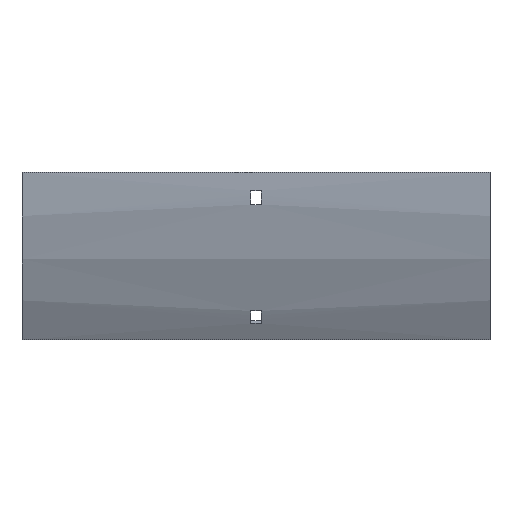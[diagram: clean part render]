
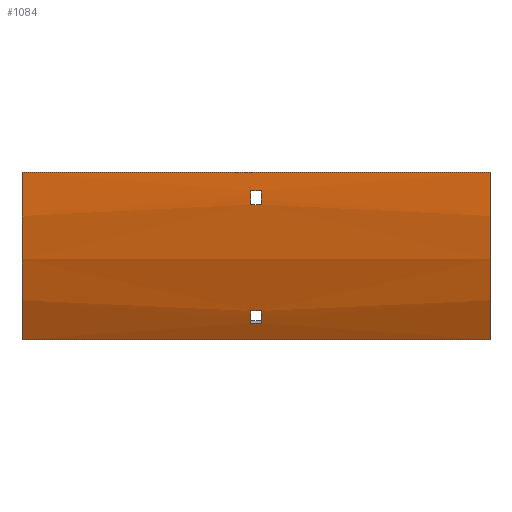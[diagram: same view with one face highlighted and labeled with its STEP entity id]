
A CAD part, front view. The second image highlights one B-rep face of the part: STEP entity #1084.
In plain terms, the highlighted cylindrical face has radius 217.5 mm (diameter 435 mm), a partial arc.
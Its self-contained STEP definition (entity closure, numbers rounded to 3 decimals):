
#8 = DIRECTION ( 'NONE',  ( -1., 0., 0. ) ) ;
#10 = ORIENTED_EDGE ( 'NONE', *, *, #236, .T. ) ;
#14 = DIRECTION ( 'NONE',  ( 1., 0., 0. ) ) ;
#39 = ORIENTED_EDGE ( 'NONE', *, *, #872, .F. ) ;
#48 = DIRECTION ( 'NONE',  ( 0., 0., -1. ) ) ;
#61 = DIRECTION ( 'NONE',  ( 1., 0., 0. ) ) ;
#101 = DIRECTION ( 'NONE',  ( 0., 0., 1. ) ) ;
#113 = AXIS2_PLACEMENT_3D ( 'NONE', #640, #1268, #868 ) ;
#156 = ORIENTED_EDGE ( 'NONE', *, *, #1044, .F. ) ;
#164 = EDGE_CURVE ( 'NONE', #1569, #1612, #210, .T. ) ;
#187 = VERTEX_POINT ( 'NONE', #1480 ) ;
#198 = EDGE_LOOP ( 'NONE', ( #1491, #344, #10, #444 ) ) ;
#209 = DIRECTION ( 'NONE',  ( -1., 0., 0. ) ) ;
#210 = CIRCLE ( 'NONE', #1019, 217.5 ) ;
#214 = CARTESIAN_POINT ( 'NONE',  ( -3.25, -94.074, -98.192 ) ) ;
#216 = EDGE_CURVE ( 'NONE', #769, #761, #411, .T. ) ;
#232 = VERTEX_POINT ( 'NONE', #214 ) ;
#236 = EDGE_CURVE ( 'NONE', #327, #1569, #439, .T. ) ;
#239 = ORIENTED_EDGE ( 'NONE', *, *, #1580, .T. ) ;
#245 = DIRECTION ( 'NONE',  ( -1., 0., 0. ) ) ;
#250 = DIRECTION ( 'NONE',  ( 0., 0., -1. ) ) ;
#251 = FACE_BOUND ( 'NONE', #198, .T. ) ;
#285 = CARTESIAN_POINT ( 'NONE',  ( 152., -117.5, 0. ) ) ;
#304 = VERTEX_POINT ( 'NONE', #330 ) ;
#327 = VERTEX_POINT ( 'NONE', #857 ) ;
#330 = CARTESIAN_POINT ( 'NONE',  ( -152., -117.5, 0. ) ) ;
#337 = EDGE_LOOP ( 'NONE', ( #39, #823, #517, #156 ) ) ;
#341 = CIRCLE ( 'NONE', #1252, 217.5 ) ;
#344 = ORIENTED_EDGE ( 'NONE', *, *, #1631, .T. ) ;
#366 = CARTESIAN_POINT ( 'NONE',  ( -152., 100., 0. ) ) ;
#373 = EDGE_CURVE ( 'NONE', #742, #769, #702, .T. ) ;
#376 = DIRECTION ( 'NONE',  ( 1., 0., 0. ) ) ;
#411 = LINE ( 'NONE', #1067, #509 ) ;
#414 = VERTEX_POINT ( 'NONE', #1362 ) ;
#432 = EDGE_CURVE ( 'NONE', #304, #414, #341, .T. ) ;
#439 = LINE ( 'NONE', #1402, #1393 ) ;
#444 = ORIENTED_EDGE ( 'NONE', *, *, #164, .T. ) ;
#495 = CARTESIAN_POINT ( 'NONE',  ( 152., -88.361, -108.75 ) ) ;
#506 = ORIENTED_EDGE ( 'NONE', *, *, #432, .T. ) ;
#509 = VECTOR ( 'NONE', #924, 1000. ) ;
#510 = EDGE_LOOP ( 'NONE', ( #506, #1101, #1391, #239 ) ) ;
#516 = LINE ( 'NONE', #1026, #741 ) ;
#517 = ORIENTED_EDGE ( 'NONE', *, *, #373, .F. ) ;
#523 = CYLINDRICAL_SURFACE ( 'NONE', #1361, 217.5 ) ;
#594 = CARTESIAN_POINT ( 'NONE',  ( 3.25, -97.98, -90.055 ) ) ;
#640 = CARTESIAN_POINT ( 'NONE',  ( -3.25, 100., 0. ) ) ;
#647 = DIRECTION ( 'NONE',  ( -1., 0., 0. ) ) ;
#649 = CARTESIAN_POINT ( 'NONE',  ( 3.25, -117.169, -12. ) ) ;
#662 = CARTESIAN_POINT ( 'NONE',  ( 3.25, -94.074, -98.192 ) ) ;
#681 = CARTESIAN_POINT ( 'NONE',  ( 152., -117.5, 0. ) ) ;
#702 = CIRCLE ( 'NONE', #1675, 217.5 ) ;
#706 = CARTESIAN_POINT ( 'NONE',  ( -3.25, -97.98, -90.055 ) ) ;
#717 = CARTESIAN_POINT ( 'NONE',  ( 152., 100., 0. ) ) ;
#741 = VECTOR ( 'NONE', #8, 1000. ) ;
#742 = VERTEX_POINT ( 'NONE', #662 ) ;
#757 = DIRECTION ( 'NONE',  ( 1., 0., 0. ) ) ;
#761 = VERTEX_POINT ( 'NONE', #706 ) ;
#769 = VERTEX_POINT ( 'NONE', #594 ) ;
#772 = DIRECTION ( 'NONE',  ( 0., 0., 1. ) ) ;
#781 = CIRCLE ( 'NONE', #1230, 217.5 ) ;
#792 = FACE_OUTER_BOUND ( 'NONE', #510, .T. ) ;
#796 = LINE ( 'NONE', #285, #897 ) ;
#823 = ORIENTED_EDGE ( 'NONE', *, *, #216, .F. ) ;
#825 = CARTESIAN_POINT ( 'NONE',  ( 3.25, 100., 0. ) ) ;
#850 = CIRCLE ( 'NONE', #113, 217.5 ) ;
#857 = CARTESIAN_POINT ( 'NONE',  ( -3.25, -117.169, -12. ) ) ;
#868 = DIRECTION ( 'NONE',  ( 0., 0., -1. ) ) ;
#872 = EDGE_CURVE ( 'NONE', #761, #232, #850, .T. ) ;
#894 = DIRECTION ( 'NONE',  ( 0., 0., -1. ) ) ;
#897 = VECTOR ( 'NONE', #1320, 1000. ) ;
#924 = DIRECTION ( 'NONE',  ( -1., 0., 0. ) ) ;
#958 = CIRCLE ( 'NONE', #1300, 217.5 ) ;
#1019 = AXIS2_PLACEMENT_3D ( 'NONE', #825, #14, #48 ) ;
#1026 = CARTESIAN_POINT ( 'NONE',  ( 152., -116.484, -21. ) ) ;
#1044 = EDGE_CURVE ( 'NONE', #232, #742, #1140, .T. ) ;
#1056 = LINE ( 'NONE', #495, #1534 ) ;
#1067 = CARTESIAN_POINT ( 'NONE',  ( 152., -97.98, -90.055 ) ) ;
#1084 = ADVANCED_FACE ( 'NONE', ( #792, #251, #1294 ), #523, .T. ) ;
#1101 = ORIENTED_EDGE ( 'NONE', *, *, #1251, .F. ) ;
#1127 = DIRECTION ( 'NONE',  ( -1., 0., 0. ) ) ;
#1140 = LINE ( 'NONE', #1567, #1621 ) ;
#1185 = CARTESIAN_POINT ( 'NONE',  ( 152., 100., 0. ) ) ;
#1230 = AXIS2_PLACEMENT_3D ( 'NONE', #1383, #1127, #101 ) ;
#1251 = EDGE_CURVE ( 'NONE', #1642, #414, #1056, .T. ) ;
#1252 = AXIS2_PLACEMENT_3D ( 'NONE', #366, #1396, #894 ) ;
#1256 = DIRECTION ( 'NONE',  ( 0., 0., 1. ) ) ;
#1262 = EDGE_CURVE ( 'NONE', #1427, #1642, #958, .T. ) ;
#1268 = DIRECTION ( 'NONE',  ( 1., 0., 0. ) ) ;
#1294 = FACE_BOUND ( 'NONE', #337, .T. ) ;
#1300 = AXIS2_PLACEMENT_3D ( 'NONE', #717, #376, #250 ) ;
#1320 = DIRECTION ( 'NONE',  ( -1., 0., 0. ) ) ;
#1326 = CARTESIAN_POINT ( 'NONE',  ( 3.25, -116.484, -21. ) ) ;
#1361 = AXIS2_PLACEMENT_3D ( 'NONE', #1185, #647, #772 ) ;
#1362 = CARTESIAN_POINT ( 'NONE',  ( -152., -88.361, -108.75 ) ) ;
#1378 = CARTESIAN_POINT ( 'NONE',  ( 152., -88.361, -108.75 ) ) ;
#1383 = CARTESIAN_POINT ( 'NONE',  ( -3.25, 100., 0. ) ) ;
#1391 = ORIENTED_EDGE ( 'NONE', *, *, #1262, .F. ) ;
#1393 = VECTOR ( 'NONE', #61, 1000. ) ;
#1396 = DIRECTION ( 'NONE',  ( 1., 0., 0. ) ) ;
#1402 = CARTESIAN_POINT ( 'NONE',  ( 152., -117.169, -12. ) ) ;
#1427 = VERTEX_POINT ( 'NONE', #681 ) ;
#1431 = CARTESIAN_POINT ( 'NONE',  ( 3.25, 100., 0. ) ) ;
#1480 = CARTESIAN_POINT ( 'NONE',  ( -3.25, -116.484, -21. ) ) ;
#1491 = ORIENTED_EDGE ( 'NONE', *, *, #1547, .T. ) ;
#1534 = VECTOR ( 'NONE', #209, 1000. ) ;
#1547 = EDGE_CURVE ( 'NONE', #1612, #187, #516, .T. ) ;
#1567 = CARTESIAN_POINT ( 'NONE',  ( 152., -94.074, -98.192 ) ) ;
#1569 = VERTEX_POINT ( 'NONE', #649 ) ;
#1580 = EDGE_CURVE ( 'NONE', #1427, #304, #796, .T. ) ;
#1612 = VERTEX_POINT ( 'NONE', #1326 ) ;
#1621 = VECTOR ( 'NONE', #757, 1000. ) ;
#1631 = EDGE_CURVE ( 'NONE', #187, #327, #781, .T. ) ;
#1642 = VERTEX_POINT ( 'NONE', #1378 ) ;
#1675 = AXIS2_PLACEMENT_3D ( 'NONE', #1431, #245, #1256 ) ;
